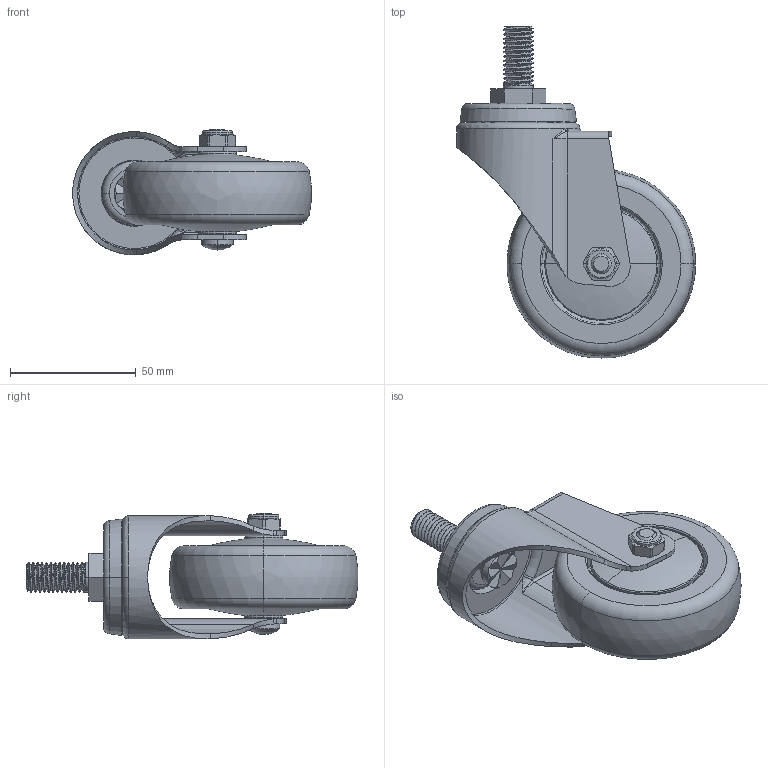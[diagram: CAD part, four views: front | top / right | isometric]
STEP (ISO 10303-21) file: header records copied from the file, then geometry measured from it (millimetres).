
FILE_DESCRIPTION((''),'2;1');
FILE_NAME('37133_ASM','2026-07-09T',('Lenovo'),(''),'PRO/ENGINEER BY PARAMETRIC TECHNOLOGY CORPORATION, 2010280','PRO/ENGINEER BY PARAMETRIC TECHNOLOGY CORPORATION, 2010280','');
FILE_SCHEMA(('CONFIG_CONTROL_DESIGN'));
Length unit declared in the file: millimetre
Products named in the file (8): 3713-311; 360-23-M12X25; 360-03; 373-907; 373-69; 350-33A; 300-34; 37133_ASM
Assembly tree (8 placements, depth 2):
  37133_ASM
    3713-311
    360-23-M12X25
    360-03
    373-907
    373-69  x2
    350-33A
    300-34
Bounding box: 94.88 x 131.9 x 49.98 mm (x, y, z)
Volume: 119706.6 mm3; surface area: 53357.5 mm2
Topology: 8 solids, 8 shells, 341 faces, 770 edges, 464 vertices
Faces by surface type: cylinder 109, plane 83, torus 78, bspline 40, cone 29, sphere 2
Entity records: 14241 total; most frequent: CARTESIAN_POINT 7214, DIRECTION 1463, ORIENTED_EDGE 1416, EDGE_CURVE 708, AXIS2_PLACEMENT_3D 623, VERTEX_POINT 430, EDGE_LOOP 344, CIRCLE 332
